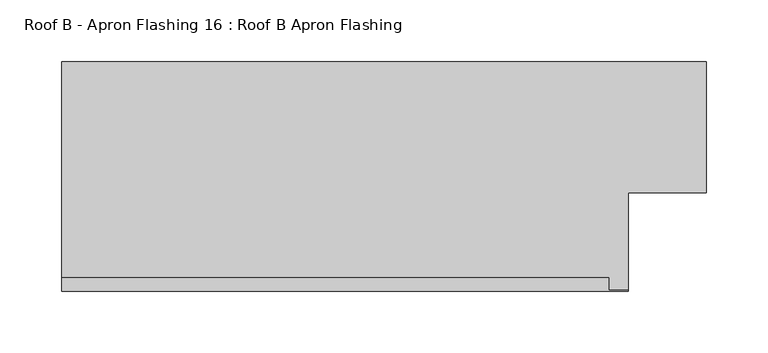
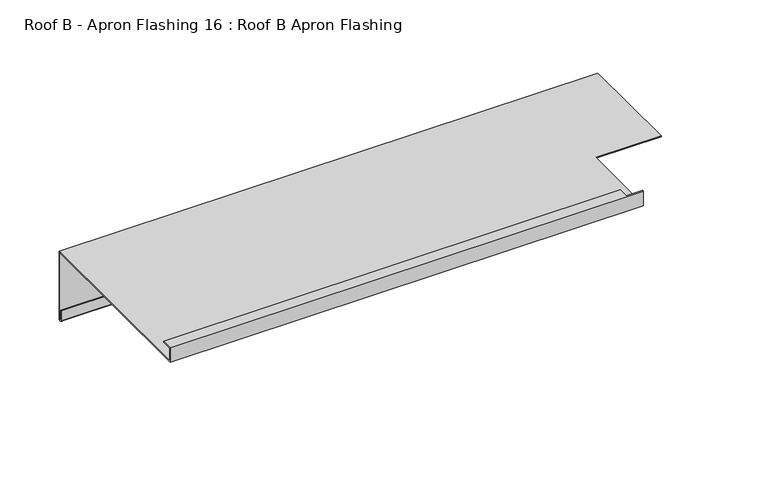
"""IFC4 building model written with IfcOpenShell, lengths in millimetres: proxy geometry, Roof B - Apron Flashing 16 : Roof B Apron Flashing."""

from ifc_helpers import new_model, si_unit, frame, origin, place, context, project, spatial, polyline, circle_curve, source, transform, mapped, element, save
from ifc_brep_helpers import plane_surface, cylinder_surface, revolved_surface, advanced_brep


def roof_b_apron_flashing_16_roof_b_apron_flashing_46ff3092(model_context):
    return source(origin(), model_context, "Body", "AdvancedBrep", [
        advanced_brep(
        [(16346.1944801, -26541.7391961, -986.662203), (16346.1944801, -26541.7391961, -1055.0764166), (16346.1944801, -26542.7391961, -1055.0764166), (16346.1944801, -26542.7391961, -1045.1233066), (16346.1944801, -26543.7391961, -1045.1233066), (16346.1944801, -26543.7391961, -1055.0764166), (16346.1944801, -26540.7391961, -1055.0764166), (16346.1944801, -26540.7391961, -985.662203), (16346.1944801, -26647.1823445, -985.662203), (16346.1944801, -26647.1823445, -986.662203), (15822.8825627, -26540.7391961, -985.662203), (15822.8825627, -26540.7391961, -1055.0764166), (15822.8825627, -26543.7391961, -1055.0764166), (15822.8825627, -26543.7391961, -1045.1233066), (15822.8825627, -26542.7391961, -1045.1233066), (15822.8825627, -26542.7391961, -1055.0764166), (15822.8825627, -26541.7391961, -1055.0764166), (15822.8825627, -26541.7391961, -986.662203), (15822.8825627, -26727.1803264, -986.662203), (15822.8825627, -26727.1803264, -971.662203), (15822.8825627, -26716.1420138, -971.662203), (15822.8825627, -26716.1420138, -972.662203), (15822.8825627, -26726.1803264, -972.662203), (15822.8825627, -26726.1803264, -985.662203), (16282.8825627, -26726.1803264, -985.662203), (16282.8825627, -26647.1823445, -985.662203), (16282.8825627, -26647.1823445, -986.662203), (16282.8825627, -26727.1803264, -986.662203), (16266.7549871, -26726.1803264, -972.662203), (16266.7549871, -26726.1803264, -971.662203), (16282.8825627, -26726.1803264, -971.662203), (16266.7549871, -26716.1420138, -972.662203), (16266.7549871, -26716.1420138, -971.662203), (16282.8825627, -26727.1803264, -971.662203)],
        [
            (0, 1),
            (1, 2, circle_curve(frame((16346.1944801, -26542.2391961, -1055.0764166), z_axis=(-1.0, 0.0, 0.0), x_axis=(0.0, 0.0, 1.0)), 0.5)),
            (2, 3),
            (3, 4),
            (4, 5),
            (5, 6, circle_curve(frame((16346.1944801, -26542.2391961, -1055.0764166), z_axis=(1.0, 0.0, 0.0), x_axis=(0.0, 0.0, 1.0)), 1.5)),
            (6, 7),
            (7, 8),
            (8, 9),
            (9, 0),
            (10, 11),
            (11, 12, circle_curve(frame((15822.8825627, -26542.2391961, -1055.0764166), z_axis=(-1.0, 0.0, 0.0), x_axis=(0.0, 0.0, 1.0)), 1.5)),
            (12, 13),
            (13, 14),
            (14, 15),
            (15, 16, circle_curve(frame((15822.8825627, -26542.2391961, -1055.0764166), z_axis=(1.0, 0.0, 0.0), x_axis=(0.0, 0.0, 1.0)), 0.5)),
            (16, 17),
            (17, 18),
            (18, 19),
            (19, 20),
            (20, 21),
            (21, 22),
            (22, 23),
            (23, 10),
            (23, 24),
            (24, 25),
            (25, 8),
            (7, 10),
            (17, 0),
            (9, 26),
            (26, 27),
            (27, 18),
            (16, 1),
            (6, 11),
            (22, 28),
            (28, 29),
            (29, 30),
            (30, 24),
            (21, 31),
            (31, 28),
            (20, 32),
            (32, 31),
            (19, 33),
            (33, 30),
            (29, 32),
            (27, 33),
            (15, 2),
            (14, 3),
            (13, 4),
            (12, 5),
            (26, 25),
        ],
        [
            plane_surface(frame((16346.1944801, -26735.2124196, -1042.7388515), z_axis=(1.0, 0.0, 0.0), x_axis=(0.0, 1.0, 0.0))),
            plane_surface(frame((15822.8825627, -26735.2124196, -1042.7388515), z_axis=(-1.0, 0.0, 0.0), x_axis=(0.0, 1.0, 0.0))),
            plane_surface(frame((16346.1944801, -26540.7391961, -985.662203), z_axis=(0.0, 0.0, 1.0), x_axis=(-1.0, 0.0, 0.0))),
            plane_surface(frame((16346.1944801, -26727.1803264, -986.662203), z_axis=(0.0, 0.0, -1.0), x_axis=(-1.0, 0.0, 0.0))),
            plane_surface(frame((16346.1944801, -26541.7391961, -986.662203), z_axis=(0.0, -1.0, 0.0), x_axis=(-1.0, 0.0, 0.0))),
            plane_surface(frame((16346.1944801, -26540.7391961, -1055.0764166), z_axis=(0.0, 1.0, 0.0), x_axis=(-1.0, 0.0, 0.0))),
            plane_surface(frame((16346.1944801, -26726.1803264, -985.662203), z_axis=(0.0, 1.0, 0.0), x_axis=(-1.0, 0.0, 0.0))),
            plane_surface(frame((16346.1944801, -26726.1803264, -972.662203), z_axis=(0.0, 0.0, -1.0), x_axis=(-1.0, 0.0, 0.0))),
            plane_surface(frame((16346.1944801, -26716.1420138, -972.662203), z_axis=(0.0, 1.0, 0.0), x_axis=(-1.0, 0.0, 0.0))),
            plane_surface(frame((16346.1944801, -26716.1420138, -971.662203), z_axis=(0.0, 0.0, 1.0), x_axis=(-1.0, 0.0, 0.0))),
            plane_surface(frame((16346.1944801, -26727.1803264, -971.662203), z_axis=(0.0, -1.0, 0.0), x_axis=(-1.0, 0.0, 0.0))),
            revolved_surface(polyline([(15822.8825627, -26542.2391961, -1054.5764166), (16346.1944801, -26542.2391961, -1054.5764166)]), (16346.1944801, -26542.2391961, -1055.0764166), (-1.0, 0.0, 0.0)),
            plane_surface(frame((16346.1944801, -26542.7391961, -1055.0764166), z_axis=(0.0, 1.0, 0.0), x_axis=(-1.0, 0.0, 0.0))),
            plane_surface(frame((16346.1944801, -26542.7391961, -1045.1233066), z_axis=(0.0, 0.0, 1.0), x_axis=(-1.0, 0.0, 0.0))),
            plane_surface(frame((16346.1944801, -26543.7391961, -1045.1233066), z_axis=(0.0, -1.0, 0.0), x_axis=(-1.0, 0.0, 0.0))),
            cylinder_surface(frame((16346.1944801, -26542.2391961, -1055.0764166), z_axis=(1.0, 0.0, 0.0), x_axis=(0.0, 0.0, 1.0)), 1.5),
            plane_surface(frame((16282.8825627, -26647.1823445, -1079.9089722), z_axis=(1.0, 0.0, 0.0), x_axis=(0.0, -0.9659258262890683, 0.25881904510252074))),
            plane_surface(frame((16282.8825627, -26647.1823445, -852.4830665), z_axis=(0.0, -1.0, 0.0), x_axis=(1.0, 0.0, 0.0))),
            plane_surface(frame((16266.7549871, -26726.1802757, -884.3834078), z_axis=(1.0, 0.0, 0.0), x_axis=(0.0, 0.0, -1.0))),
        ],
        [
            (0, [[1, 2, 3, 4, 5, 6, 7, 8, 9, 10]]),
            (1, [[11, 12, 13, 14, 15, 16, 17, 18, 19, 20, 21, 22, 23, 24]]),
            (2, [[-24, 25, 26, 27, -8, 28]]),
            (3, [[-18, 29, -10, 30, 31, 32]]),
            (4, [[-1, -29, -17, 33]]),
            (5, [[-7, 34, -11, -28]]),
            (6, [[-23, 35, 36, 37, 38, -25]]),
            (7, [[-22, 39, 40, -35]]),
            (8, [[-21, 41, 42, -39]]),
            (9, [[-20, 43, 44, -37, 45, -41]]),
            (10, [[-19, -32, 46, -43]]),
            (11, [[-2, -33, -16, 47]]),
            (12, [[-3, -47, -15, 48]]),
            (13, [[-4, -48, -14, 49]]),
            (14, [[-5, -49, -13, 50]]),
            (15, [[-6, -50, -12, -34]]),
            (16, [[51, -26, -38, -44, -46, -31]]),
            (17, [[-51, -30, -9, -27]]),
            (18, [[-36, -40, -42, -45]]),
        ],
    ),
    ])


if __name__ == "__main__":
    model = new_model("IFC4")
    model_context = context("Model", 3, world=origin())
    ifc_project = project(units=[si_unit("LENGTHUNIT", "METRE", prefix="MILLI")], contexts=[model_context])
    site = spatial("IfcSite", under=ifc_project)
    building = spatial("IfcBuilding", under=site)
    placement = place(None, origin())
    roof_b_apron_flashing_16_roof_b_apron_flashing_shape = roof_b_apron_flashing_16_roof_b_apron_flashing_46ff3092(model_context)
    element("IfcBuildingElementProxy", 1, Name="Roof B - Apron Flashing 16 : Roof B Apron Flashing", ObjectType="Roof B - Apron Flashing 16 : Roof B Apron Flashing", at=placement, inside=building, context=model_context, shape_type="MappedRepresentation", body=[
        mapped(roof_b_apron_flashing_16_roof_b_apron_flashing_shape, transform((0.0, 0.0, 0.0), x_axis=(1.0, 0.0, 0.0), y_axis=(0.0, 1.0, 0.0), z_axis=(0.0, 0.0, 1.0))),
    ])
    save(model, "model.ifc")
